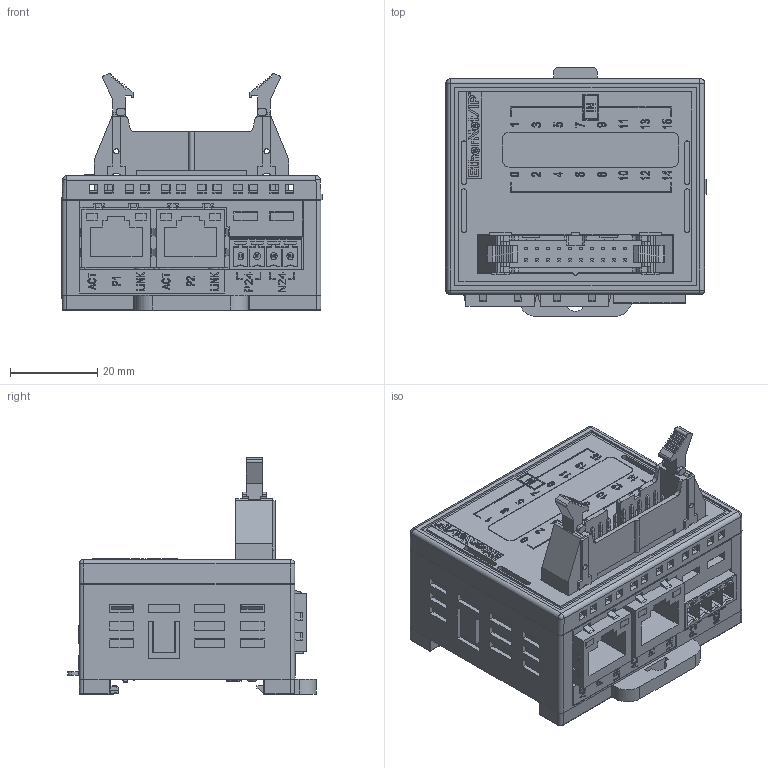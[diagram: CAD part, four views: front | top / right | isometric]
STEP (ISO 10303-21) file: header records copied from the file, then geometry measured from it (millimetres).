
FILE_DESCRIPTION((''),'2;1');
FILE_NAME('EICMPF0','2026-05-11T14:26:24',('gijyu181'),(''),'CREO PARAMETRIC BY PTC INC, 2018050','CREO PARAMETRIC BY PTC INC, 2018050','');
FILE_SCHEMA(('CONFIG_CONTROL_DESIGN','SHAPE_APPEARANCE_LAYERS_GROUPS'));
Products named in the file (1): EICMPF0
Bounding box: 59.75 x 57.15 x 54.5 mm (x, y, z)
Volume: 70720.9 mm3; surface area: 38772 mm2
Topology: 1 solids, 15 shells, 6225 faces, 17229 edges, 11333 vertices
Faces by surface type: plane 4753, cylinder 681, extrusion 677, sphere 44, torus 26, bspline 24, cone 20
Entity records: 248010 total; most frequent: CARTESIAN_POINT 43363, ORIENTED_EDGE 34430, DIRECTION 28651, EDGE_CURVE 17219, VECTOR 14837, LINE 14160, VERTEX_POINT 11333, PRESENTATION_STYLE_ASSIGNMENT 9452
